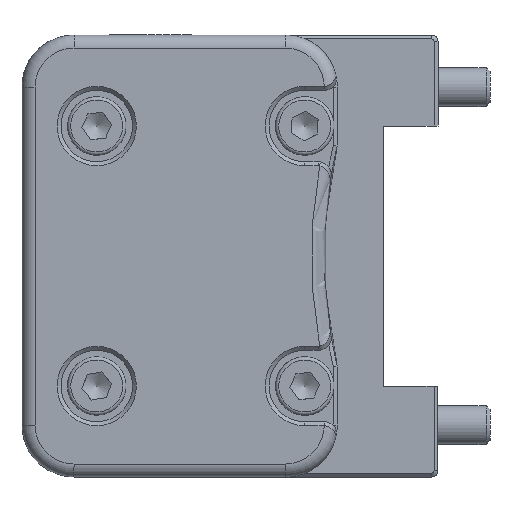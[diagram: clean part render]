
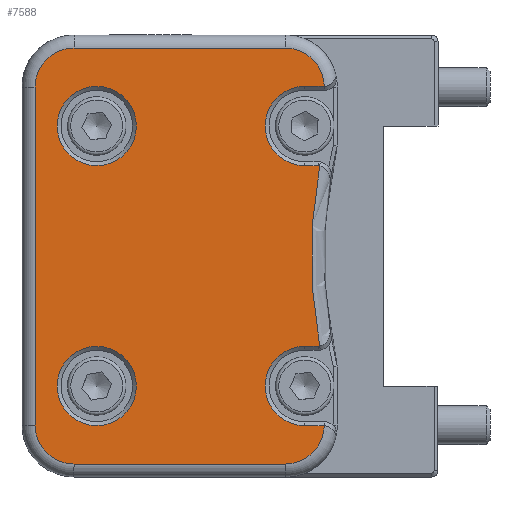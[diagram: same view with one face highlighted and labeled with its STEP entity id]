
A CAD part, front view. The second image highlights one B-rep face of the part: STEP entity #7588.
In plain terms, the highlighted planar face has unit normal (0, -1, 0).
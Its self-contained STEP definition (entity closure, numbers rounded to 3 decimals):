
#197=FACE_BOUND('',#1406,.T.);
#198=FACE_BOUND('',#1407,.T.);
#297=PLANE('',#8199);
#954=FACE_OUTER_BOUND('',#1405,.T.);
#1405=EDGE_LOOP('',(#5777,#5778,#5779,#5780,#5781,#5782,#5783,#5784,#5785,
#5786,#5787,#5788,#5789,#5790,#5791,#5792,#5793,#5794));
#1406=EDGE_LOOP('',(#5795));
#1407=EDGE_LOOP('',(#5796));
#1803=B_SPLINE_CURVE_WITH_KNOTS('',3,(#12212,#12213,#12214,#12215),
 .UNSPECIFIED.,.F.,.F.,(4,4),(-0.446,-0.445),
 .UNSPECIFIED.);
#1804=B_SPLINE_CURVE_WITH_KNOTS('',3,(#12231,#12232,#12233,#12234),
 .UNSPECIFIED.,.F.,.F.,(4,4),(-0.148,-0.147),
 .UNSPECIFIED.);
#1984=CIRCLE('',#8196,3.05);
#1987=CIRCLE('',#8200,0.7);
#1988=CIRCLE('',#8201,3.05);
#1989=CIRCLE('',#8202,3.);
#1990=CIRCLE('',#8203,3.);
#1991=CIRCLE('',#8204,3.);
#1992=CIRCLE('',#8205,3.);
#1993=CIRCLE('',#8206,3.05);
#1994=CIRCLE('',#8207,0.7);
#1995=CIRCLE('',#8208,37.25);
#1996=CIRCLE('',#8209,3.05);
#2425=LINE('',#12206,#2986);
#2426=LINE('',#12210,#2987);
#2427=LINE('',#12219,#2988);
#2428=LINE('',#12223,#2989);
#2429=LINE('',#12227,#2990);
#2430=LINE('',#12236,#2991);
#2431=LINE('',#12240,#2992);
#2986=VECTOR('',#9473,10.);
#2987=VECTOR('',#9476,10.);
#2988=VECTOR('',#9479,10.);
#2989=VECTOR('',#9482,10.);
#2990=VECTOR('',#9485,10.);
#2991=VECTOR('',#9488,10.);
#2992=VECTOR('',#9491,10.);
#3624=VERTEX_POINT('',#12194);
#3627=VERTEX_POINT('',#12202);
#3628=VERTEX_POINT('',#12203);
#3629=VERTEX_POINT('',#12205);
#3630=VERTEX_POINT('',#12207);
#3631=VERTEX_POINT('',#12209);
#3632=VERTEX_POINT('',#12211);
#3633=VERTEX_POINT('',#12216);
#3634=VERTEX_POINT('',#12218);
#3635=VERTEX_POINT('',#12220);
#3636=VERTEX_POINT('',#12222);
#3637=VERTEX_POINT('',#12224);
#3638=VERTEX_POINT('',#12226);
#3639=VERTEX_POINT('',#12228);
#3640=VERTEX_POINT('',#12230);
#3641=VERTEX_POINT('',#12235);
#3642=VERTEX_POINT('',#12237);
#3643=VERTEX_POINT('',#12239);
#3644=VERTEX_POINT('',#12241);
#3645=VERTEX_POINT('',#12244);
#4430=EDGE_CURVE('',#3624,#3624,#1984,.T.);
#4434=EDGE_CURVE('',#3627,#3628,#1987,.T.);
#4435=EDGE_CURVE('',#3629,#3627,#2425,.T.);
#4436=EDGE_CURVE('',#3630,#3629,#1988,.T.);
#4437=EDGE_CURVE('',#3631,#3630,#2426,.T.);
#4438=EDGE_CURVE('',#3632,#3631,#1803,.T.);
#4439=EDGE_CURVE('',#3633,#3632,#1989,.T.);
#4440=EDGE_CURVE('',#3634,#3633,#2427,.T.);
#4441=EDGE_CURVE('',#3635,#3634,#1990,.T.);
#4442=EDGE_CURVE('',#3636,#3635,#2428,.T.);
#4443=EDGE_CURVE('',#3637,#3636,#1991,.T.);
#4444=EDGE_CURVE('',#3638,#3637,#2429,.T.);
#4445=EDGE_CURVE('',#3639,#3638,#1992,.T.);
#4446=EDGE_CURVE('',#3640,#3639,#1804,.T.);
#4447=EDGE_CURVE('',#3641,#3640,#2430,.T.);
#4448=EDGE_CURVE('',#3642,#3641,#1993,.T.);
#4449=EDGE_CURVE('',#3643,#3642,#2431,.T.);
#4450=EDGE_CURVE('',#3644,#3643,#1994,.T.);
#4451=EDGE_CURVE('',#3628,#3644,#1995,.T.);
#4452=EDGE_CURVE('',#3645,#3645,#1996,.T.);
#5777=ORIENTED_EDGE('',*,*,#4434,.F.);
#5778=ORIENTED_EDGE('',*,*,#4435,.F.);
#5779=ORIENTED_EDGE('',*,*,#4436,.F.);
#5780=ORIENTED_EDGE('',*,*,#4437,.F.);
#5781=ORIENTED_EDGE('',*,*,#4438,.F.);
#5782=ORIENTED_EDGE('',*,*,#4439,.F.);
#5783=ORIENTED_EDGE('',*,*,#4440,.F.);
#5784=ORIENTED_EDGE('',*,*,#4441,.F.);
#5785=ORIENTED_EDGE('',*,*,#4442,.F.);
#5786=ORIENTED_EDGE('',*,*,#4443,.F.);
#5787=ORIENTED_EDGE('',*,*,#4444,.F.);
#5788=ORIENTED_EDGE('',*,*,#4445,.F.);
#5789=ORIENTED_EDGE('',*,*,#4446,.F.);
#5790=ORIENTED_EDGE('',*,*,#4447,.F.);
#5791=ORIENTED_EDGE('',*,*,#4448,.F.);
#5792=ORIENTED_EDGE('',*,*,#4449,.F.);
#5793=ORIENTED_EDGE('',*,*,#4450,.F.);
#5794=ORIENTED_EDGE('',*,*,#4451,.F.);
#5795=ORIENTED_EDGE('',*,*,#4452,.F.);
#5796=ORIENTED_EDGE('',*,*,#4430,.F.);
#7588=ADVANCED_FACE('',(#954,#197,#198),#297,.T.);
#8196=AXIS2_PLACEMENT_3D('',#12195,#9462,#9463);
#8199=AXIS2_PLACEMENT_3D('',#12201,#9469,#9470);
#8200=AXIS2_PLACEMENT_3D('',#12204,#9471,#9472);
#8201=AXIS2_PLACEMENT_3D('',#12208,#9474,#9475);
#8202=AXIS2_PLACEMENT_3D('',#12217,#9477,#9478);
#8203=AXIS2_PLACEMENT_3D('',#12221,#9480,#9481);
#8204=AXIS2_PLACEMENT_3D('',#12225,#9483,#9484);
#8205=AXIS2_PLACEMENT_3D('',#12229,#9486,#9487);
#8206=AXIS2_PLACEMENT_3D('',#12238,#9489,#9490);
#8207=AXIS2_PLACEMENT_3D('',#12242,#9492,#9493);
#8208=AXIS2_PLACEMENT_3D('',#12243,#9494,#9495);
#8209=AXIS2_PLACEMENT_3D('',#12245,#9496,#9497);
#9462=DIRECTION('center_axis',(0.,-1.,0.));
#9463=DIRECTION('ref_axis',(0.,0.,
-1.));
#9469=DIRECTION('center_axis',(0.,-1.,0.));
#9470=DIRECTION('ref_axis',(0.,0.,1.));
#9471=DIRECTION('center_axis',(0.,1.,0.));
#9472=DIRECTION('ref_axis',(0.764,0.,0.645));
#9473=DIRECTION('',(1.,0.,0.));
#9474=DIRECTION('center_axis',(0.,-1.,0.));
#9475=DIRECTION('ref_axis',(0.,0.,1.));
#9476=DIRECTION('',(-1.,0.,0.));
#9477=DIRECTION('center_axis',(0.,1.,0.));
#9478=DIRECTION('ref_axis',(0.661,0.,0.75));
#9479=DIRECTION('',(1.,0.,0.));
#9480=DIRECTION('center_axis',(0.,1.,0.));
#9481=DIRECTION('ref_axis',(-0.707,0.,0.707));
#9482=DIRECTION('',(0.,0.,1.));
#9483=DIRECTION('center_axis',(0.,1.,0.));
#9484=DIRECTION('ref_axis',(-0.707,0.,-0.707));
#9485=DIRECTION('',(-1.,0.,0.));
#9486=DIRECTION('center_axis',(0.,1.,0.));
#9487=DIRECTION('ref_axis',(0.661,0.,-0.75));
#9488=DIRECTION('',(1.,0.,0.));
#9489=DIRECTION('center_axis',(0.,-1.,0.));
#9490=DIRECTION('ref_axis',(0.,0.,1.));
#9491=DIRECTION('',(-1.,0.,0.));
#9492=DIRECTION('center_axis',(0.,1.,0.));
#9493=DIRECTION('ref_axis',(0.764,0.,-0.645));
#9494=DIRECTION('center_axis',(0.,-1.,0.));
#9495=DIRECTION('ref_axis',(-1.,0.,0.));
#9496=DIRECTION('center_axis',(0.,-1.,0.));
#9497=DIRECTION('ref_axis',(0.,0.,
-1.));
#12194=CARTESIAN_POINT('',(-26.25,-33.268,-6.95));
#12195=CARTESIAN_POINT('Origin',(-26.25,-33.268,-10.));
#12201=CARTESIAN_POINT('Origin',(-19.875,-33.268,0.));
#12202=CARTESIAN_POINT('',(-9.222,-33.268,6.95));
#12203=CARTESIAN_POINT('',(-9.098,-33.268,6.939));
#12204=CARTESIAN_POINT('Origin',(-9.222,-33.268,6.25));
#12205=CARTESIAN_POINT('',(-10.25,-33.268,6.95));
#12206=CARTESIAN_POINT('',(-13.812,-33.268,6.95));
#12207=CARTESIAN_POINT('',(-10.25,-33.268,13.05));
#12208=CARTESIAN_POINT('Origin',(-10.25,-33.268,10.));
#12209=CARTESIAN_POINT('',(-8.76,-33.268,13.05));
#12210=CARTESIAN_POINT('',(-15.062,-33.268,13.05));
#12211=CARTESIAN_POINT('',(-8.75,-33.268,13.05));
#12212=CARTESIAN_POINT('Ctrl Pts',(-8.75,-33.268,
13.05));
#12213=CARTESIAN_POINT('Ctrl Pts',(-8.754,-33.268,
13.05));
#12214=CARTESIAN_POINT('Ctrl Pts',(-8.757,-33.268,
13.05));
#12215=CARTESIAN_POINT('Ctrl Pts',(-8.76,-33.268,
13.05));
#12216=CARTESIAN_POINT('',(-11.75,-33.268,16.));
#12217=CARTESIAN_POINT('Origin',(-11.75,-33.268,13.));
#12218=CARTESIAN_POINT('',(-28.,-33.268,16.));
#12219=CARTESIAN_POINT('',(-13.812,-33.268,16.));
#12220=CARTESIAN_POINT('',(-31.,-33.268,13.));
#12221=CARTESIAN_POINT('Origin',(-28.,-33.268,13.));
#12222=CARTESIAN_POINT('',(-31.,-33.268,-13.));
#12223=CARTESIAN_POINT('',(-31.,-33.268,8.5));
#12224=CARTESIAN_POINT('',(-28.,-33.268,-16.));
#12225=CARTESIAN_POINT('Origin',(-28.,-33.268,-13.));
#12226=CARTESIAN_POINT('',(-11.75,-33.268,-16.));
#12227=CARTESIAN_POINT('',(-25.938,-33.268,-16.));
#12228=CARTESIAN_POINT('',(-8.75,-33.268,-13.05));
#12229=CARTESIAN_POINT('Origin',(-11.75,-33.268,-13.));
#12230=CARTESIAN_POINT('',(-8.76,-33.268,-13.05));
#12231=CARTESIAN_POINT('Ctrl Pts',(-8.76,-33.268,-13.05));
#12232=CARTESIAN_POINT('Ctrl Pts',(-8.757,-33.268,
-13.05));
#12233=CARTESIAN_POINT('Ctrl Pts',(-8.754,-33.268,
-13.05));
#12234=CARTESIAN_POINT('Ctrl Pts',(-8.75,-33.268,
-13.05));
#12235=CARTESIAN_POINT('',(-10.25,-33.268,-13.05));
#12236=CARTESIAN_POINT('',(-13.812,-33.268,-13.05));
#12237=CARTESIAN_POINT('',(-10.25,-33.268,-6.95));
#12238=CARTESIAN_POINT('Origin',(-10.25,-33.268,-10.));
#12239=CARTESIAN_POINT('',(-9.222,-33.268,-6.95));
#12240=CARTESIAN_POINT('',(-15.062,-33.268,-6.95));
#12241=CARTESIAN_POINT('',(-9.098,-33.268,-6.939));
#12242=CARTESIAN_POINT('Origin',(-9.222,-33.268,-6.25));
#12243=CARTESIAN_POINT('Origin',(27.5,-33.268,0.));
#12244=CARTESIAN_POINT('',(-26.25,-33.268,13.05));
#12245=CARTESIAN_POINT('Origin',(-26.25,-33.268,10.));
